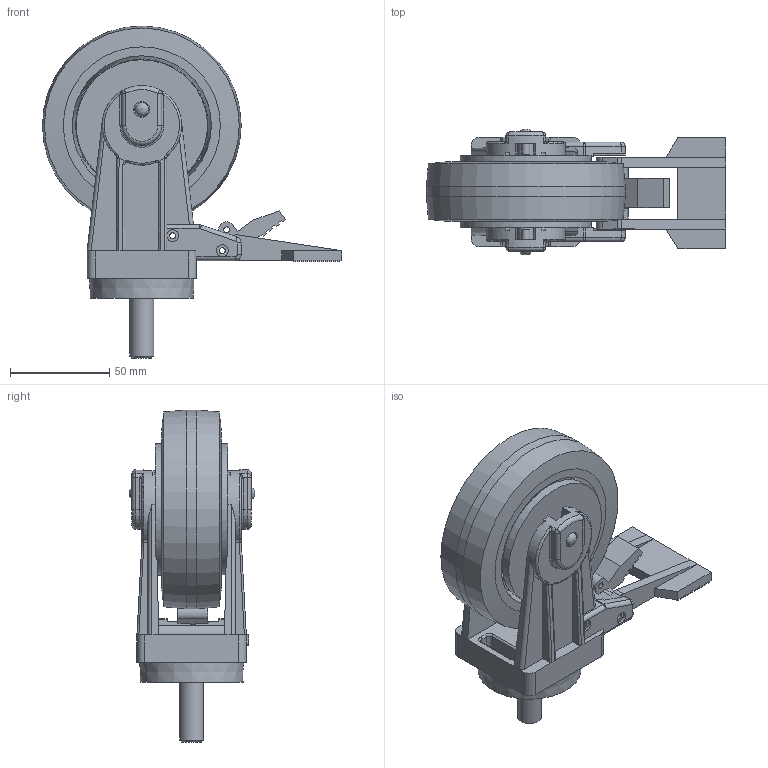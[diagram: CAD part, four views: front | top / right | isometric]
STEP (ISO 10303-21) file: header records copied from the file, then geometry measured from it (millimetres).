
FILE_DESCRIPTION((''),'2;1');
FILE_NAME('C:\Documents and Settings\Administrator\바탕 화면\2011년도\도면 및 견적서 발송\지덕 전체도면\3D도면\GDC\GDC-100-BRS\GDC-100-BRS.stp','2012-02-03T09:19:11',('Administrator'),(''),'Autodesk Inventor 2009','Autodesk Inventor 2009','');
FILE_SCHEMA(('AUTOMOTIVE_DESIGN { 1 0 10303 214 1 1 1 1 }'));
Length unit declared in the file: millimetre
Products named in the file (1): GDC-100-BRS
Bounding box: 150.5 x 63.09 x 167 mm (x, y, z)
Volume: 293246 mm3; surface area: 93382.7 mm2
Topology: 1 solids, 3 shells, 545 faces, 1426 edges, 902 vertices
Faces by surface type: plane 251, cylinder 123, bspline 109, torus 46, cone 12, sphere 4
Full cylindrical faces by diameter (mm): 3 x6, 4 x3, 6 x2, 8 x4, 12 x5, 13 x6, 15.3 x2, 18 x4, 20 x1, 22 x2, 46 x2, 50 x2, 62 x2, 66 x2, 100 x1
Entity records: 19197 total; most frequent: CARTESIAN_POINT 6474, ORIENTED_EDGE 2592, DIRECTION 2573, EDGE_CURVE 1296, AXIS2_PLACEMENT_3D 934, VERTEX_POINT 860, VECTOR 705, LINE 705
